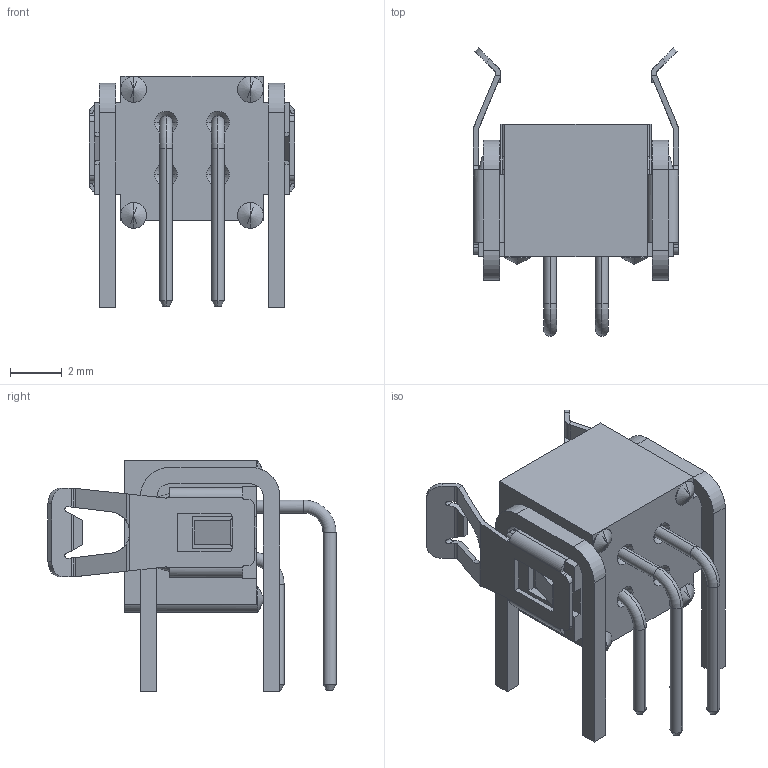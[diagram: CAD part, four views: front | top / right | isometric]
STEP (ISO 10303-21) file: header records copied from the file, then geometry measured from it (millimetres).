
FILE_DESCRIPTION(('STEP AP242'),'1');
FILE_NAME('m80-8510442.stp','2023-12-23T11:57:36',('TraceParts'),('TraceParts S.A.'),'Spatial InterOp 3D',' ',' ');
FILE_SCHEMA(('AP242_MANAGED_MODEL_BASED_3D_ENGINEERING_MIM_LF {1 0 10303 442 1 1 4}'));
Length unit declared in the file: millimetre
Products named in the file (1): m80-8510442_1
Bounding box: 7.9 x 11.1 x 8.9 mm (x, y, z)
Volume: 147.9 mm3; surface area: 603.3 mm2
Topology: 9 solids, 9 shells, 475 faces, 1222 edges, 762 vertices
Faces by surface type: plane 247, cylinder 152, cone 52, bspline 16, torus 8
Entity records: 21490 total; most frequent: CARTESIAN_POINT 3720, ORIENTED_EDGE 2428, DIRECTION 2326, STYLED_ITEM 1239, PRESENTATION_STYLE_ASSIGNMENT 1239, COLOUR_RGB 1239, EDGE_CURVE 1214, CURVE_STYLE 1202
